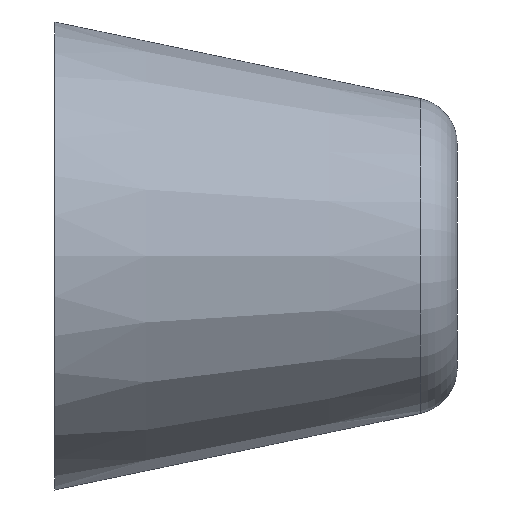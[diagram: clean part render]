
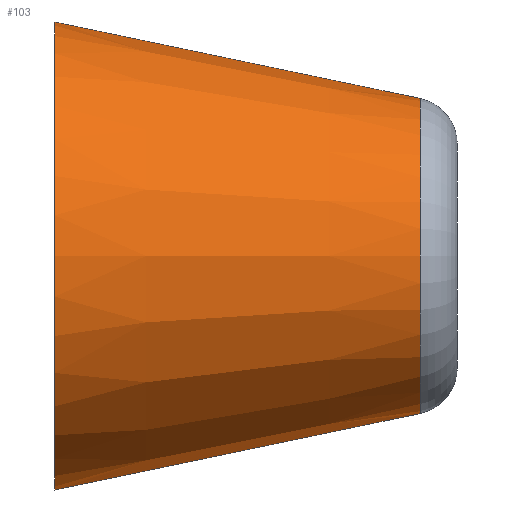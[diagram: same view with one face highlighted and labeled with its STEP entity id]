
A CAD part, left-side view. The second image highlights one B-rep face of the part: STEP entity #103.
In plain terms, the highlighted conical face has half-angle 11.821 degrees and reference radius 16 mm.
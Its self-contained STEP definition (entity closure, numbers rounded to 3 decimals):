
#5 = AXIS2_PLACEMENT_3D ( 'NONE', #499, #40, #82 ) ;
#31 = CARTESIAN_POINT ( 'NONE',  ( 0., 0., 0. ) ) ;
#40 = DIRECTION ( 'NONE',  ( 0., 1., 0. ) ) ;
#41 = DIRECTION ( 'NONE',  ( 0., 1., 0. ) ) ;
#80 = CARTESIAN_POINT ( 'NONE',  ( 0., 43., 25. ) ) ;
#82 = DIRECTION ( 'NONE',  ( 0., 0., -1. ) ) ;
#86 = LINE ( 'NONE', #215, #470 ) ;
#96 = VERTEX_POINT ( 'NONE', #301 ) ;
#103 = ADVANCED_FACE ( 'NONE', ( #200 ), #296, .T. ) ;
#104 = VERTEX_POINT ( 'NONE', #552 ) ;
#116 = ORIENTED_EDGE ( 'NONE', *, *, #505, .F. ) ;
#147 = VERTEX_POINT ( 'NONE', #80 ) ;
#159 = CIRCLE ( 'NONE', #389, 25. ) ;
#172 = DIRECTION ( 'NONE',  ( 0., 0., -1. ) ) ;
#177 = DIRECTION ( 'NONE',  ( 0., -1., 0. ) ) ;
#179 = EDGE_LOOP ( 'NONE', ( #116, #357, #589, #332 ) ) ;
#200 = FACE_OUTER_BOUND ( 'NONE', #179, .T. ) ;
#215 = CARTESIAN_POINT ( 'NONE',  ( 0., 0., -16. ) ) ;
#231 = AXIS2_PLACEMENT_3D ( 'NONE', #31, #41, #313 ) ;
#259 = DIRECTION ( 'NONE',  ( 0., 0.979, -0.205 ) ) ;
#296 = CONICAL_SURFACE ( 'NONE', #231, 16., 0.206 ) ;
#298 = EDGE_CURVE ( 'NONE', #476, #147, #385, .T. ) ;
#301 = CARTESIAN_POINT ( 'NONE',  ( 0., 3.976, -16.832 ) ) ;
#313 = DIRECTION ( 'NONE',  ( 0., 0., 1. ) ) ;
#332 = ORIENTED_EDGE ( 'NONE', *, *, #433, .T. ) ;
#357 = ORIENTED_EDGE ( 'NONE', *, *, #445, .T. ) ;
#385 = LINE ( 'NONE', #569, #502 ) ;
#389 = AXIS2_PLACEMENT_3D ( 'NONE', #414, #177, #172 ) ;
#414 = CARTESIAN_POINT ( 'NONE',  ( 0., 43., 0. ) ) ;
#433 = EDGE_CURVE ( 'NONE', #147, #104, #159, .T. ) ;
#445 = EDGE_CURVE ( 'NONE', #96, #476, #572, .T. ) ;
#470 = VECTOR ( 'NONE', #259, 1000. ) ;
#476 = VERTEX_POINT ( 'NONE', #601 ) ;
#499 = CARTESIAN_POINT ( 'NONE',  ( 0., 3.976, 0. ) ) ;
#502 = VECTOR ( 'NONE', #520, 1000. ) ;
#505 = EDGE_CURVE ( 'NONE', #96, #104, #86, .T. ) ;
#520 = DIRECTION ( 'NONE',  ( 0., 0.979, 0.205 ) ) ;
#552 = CARTESIAN_POINT ( 'NONE',  ( 0., 43., -25. ) ) ;
#569 = CARTESIAN_POINT ( 'NONE',  ( 0., 0., 16. ) ) ;
#572 = CIRCLE ( 'NONE', #5, 16.832 ) ;
#589 = ORIENTED_EDGE ( 'NONE', *, *, #298, .T. ) ;
#601 = CARTESIAN_POINT ( 'NONE',  ( 0., 3.976, 16.832 ) ) ;
